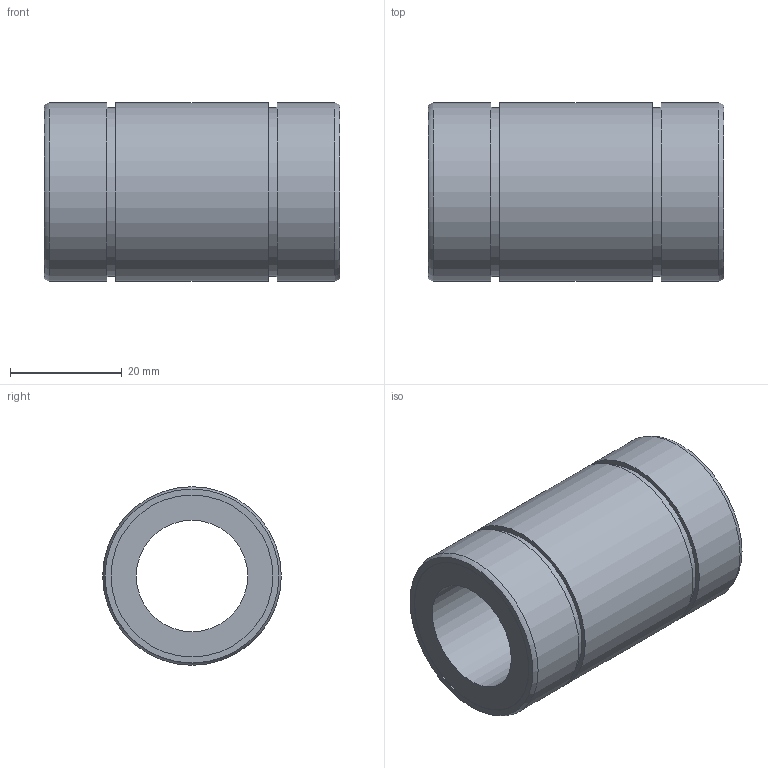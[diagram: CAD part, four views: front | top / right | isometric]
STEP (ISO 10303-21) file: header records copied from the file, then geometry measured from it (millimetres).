
FILE_DESCRIPTION((''),'2;1');
FILE_NAME('D:\製品 (図面)\カタログ用3D\メンテナンスフリー関連\STEP形式\L-MF\L20MF.stp','2010-06-01T16:13:06',('Tsuchiya'),(''),'Autodesk Inventor 10','Autodesk Inventor 10','');
FILE_SCHEMA(('AUTOMOTIVE_DESIGN { 1 0 10303 214 1 1 1 1 }'));
Length unit declared in the file: millimetre
Products named in the file (1): L20MF
Bounding box: 53 x 32 x 32 mm (x, y, z)
Volume: 25605.5 mm3; surface area: 9892.2 mm2
Topology: 1 solids, 1 shells, 18 faces, 28 edges, 18 vertices
Faces by surface type: cylinder 8, plane 8, torus 2
Full cylindrical faces by diameter (mm): 20 x1, 29 x2, 30.3 x2, 32 x3
Entity records: 391 total; most frequent: DIRECTION 74, CARTESIAN_POINT 55, AXIS2_PLACEMENT_3D 37, ORIENTED_EDGE 36, EDGE_LOOP 36, VERTEX_POINT 18, CIRCLE 18, EDGE_CURVE 18
